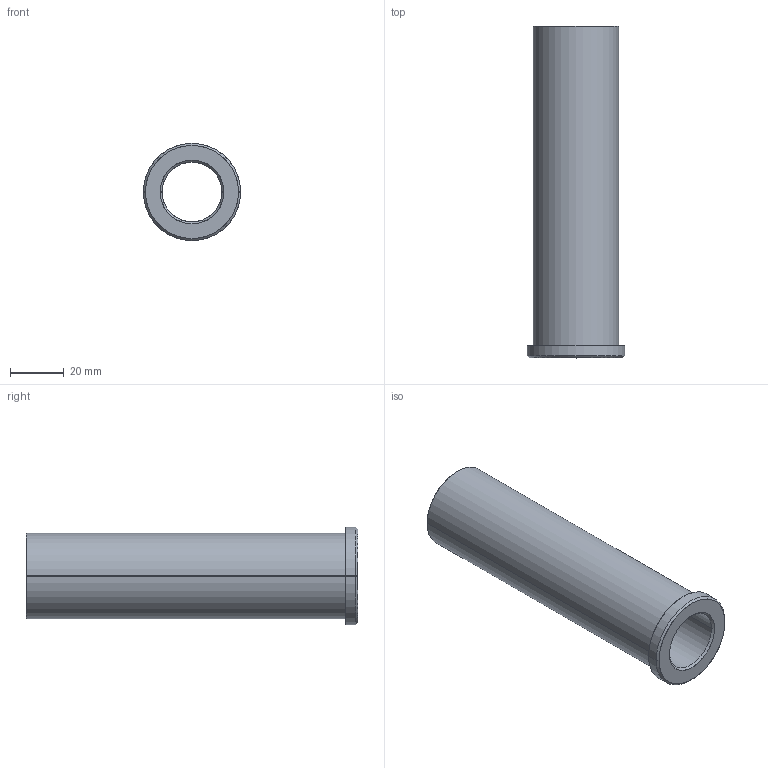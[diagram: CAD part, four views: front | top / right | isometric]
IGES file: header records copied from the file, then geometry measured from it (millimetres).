
Start section: SolidWorks IGES file using analytic representation for surfaces
Global section: file name: C:\Users\Ryan\Documents\PCS\Shoulder Bushings - Bronze Plated\LBB 07-47.igs; native system: SolidWorks 2009; preprocessor: SolidWorks 2009; author: Ryan; date: 140913.211653; units: inch
Bounding box: 36.25 x 123.83 x 36.25 mm (x, y, z)
Surface area: 22233.8 mm2 (no closed solid volume)
Topology: 0 solids, 0 shells, 15 faces, 368 edges, 368 vertices
Faces by surface type: revolution 10, bspline 5
